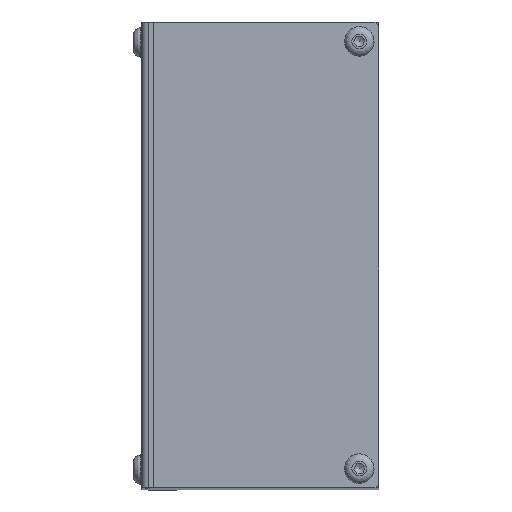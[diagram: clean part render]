
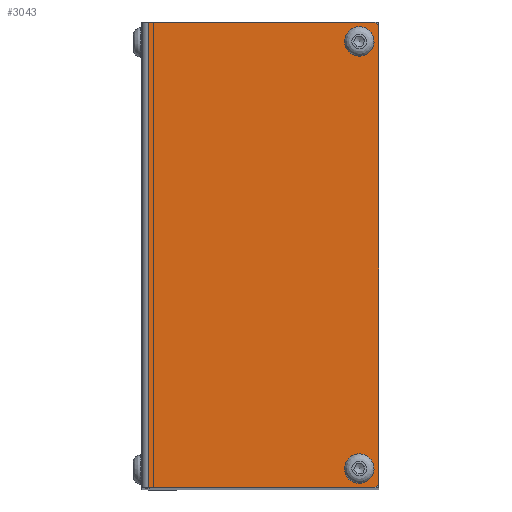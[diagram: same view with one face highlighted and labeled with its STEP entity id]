
A CAD part, top view. The second image highlights one B-rep face of the part: STEP entity #3043.
In plain terms, the highlighted planar face has unit normal (0, 0, 1).
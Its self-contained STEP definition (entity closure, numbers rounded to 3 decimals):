
#67=LINE('',#4733,#279);
#75=LINE('',#4751,#287);
#97=LINE('',#4806,#309);
#98=LINE('',#4808,#310);
#99=LINE('',#4809,#311);
#100=LINE('',#4810,#312);
#279=VECTOR('',#3743,1.414);
#287=VECTOR('',#3755,1.414);
#309=VECTOR('',#3817,120.);
#310=VECTOR('',#3820,58.2);
#311=VECTOR('',#3821,58.2);
#312=VECTOR('',#3822,118.);
#567=PLANE('',#3293);
#663=FACE_BOUND('',#999,.T.);
#664=FACE_BOUND('',#1000,.T.);
#777=FACE_OUTER_BOUND('',#998,.T.);
#998=EDGE_LOOP('',(#2219,#2220,#2221,#2222,#2223,#2224));
#999=EDGE_LOOP('',(#2225));
#1000=EDGE_LOOP('',(#2226));
#1200=CIRCLE('',#3294,3.8);
#1201=CIRCLE('',#3295,3.8);
#1379=VERTEX_POINT('',#4730);
#1380=VERTEX_POINT('',#4732);
#1387=VERTEX_POINT('',#4748);
#1388=VERTEX_POINT('',#4750);
#1398=VERTEX_POINT('',#4791);
#1399=VERTEX_POINT('',#4796);
#1402=VERTEX_POINT('',#4811);
#1403=VERTEX_POINT('',#4813);
#1678=EDGE_CURVE('',#1379,#1380,#67,.T.);
#1686=EDGE_CURVE('',#1387,#1388,#75,.T.);
#1717=EDGE_CURVE('',#1398,#1399,#97,.T.);
#1718=EDGE_CURVE('',#1398,#1379,#98,.T.);
#1719=EDGE_CURVE('',#1388,#1399,#99,.T.);
#1720=EDGE_CURVE('',#1380,#1387,#100,.T.);
#1721=EDGE_CURVE('',#1402,#1402,#1200,.T.);
#1722=EDGE_CURVE('',#1403,#1403,#1201,.T.);
#2219=ORIENTED_EDGE('',*,*,#1678,.F.);
#2220=ORIENTED_EDGE('',*,*,#1718,.F.);
#2221=ORIENTED_EDGE('',*,*,#1717,.T.);
#2222=ORIENTED_EDGE('',*,*,#1719,.F.);
#2223=ORIENTED_EDGE('',*,*,#1686,.F.);
#2224=ORIENTED_EDGE('',*,*,#1720,.F.);
#2225=ORIENTED_EDGE('',*,*,#1721,.T.);
#2226=ORIENTED_EDGE('',*,*,#1722,.T.);
#3043=ADVANCED_FACE('',(#777,#663,#664),#567,.F.);
#3293=AXIS2_PLACEMENT_3D('',#4807,#3818,#3819);
#3294=AXIS2_PLACEMENT_3D('',#4812,#3823,#3824);
#3295=AXIS2_PLACEMENT_3D('',#4814,#3825,#3826);
#3743=DIRECTION('',(0.707,-0.707,0.));
#3755=DIRECTION('',(-0.707,-0.707,0.));
#3817=DIRECTION('',(0.,-1.,0.));
#3818=DIRECTION('center_axis',(0.,0.,
-1.));
#3819=DIRECTION('ref_axis',(0.,-1.,0.));
#3820=DIRECTION('',(1.,0.,0.));
#3821=DIRECTION('',(-1.,0.,0.));
#3822=DIRECTION('',(0.,-1.,0.));
#3823=DIRECTION('center_axis',(0.,0.,
-1.));
#3824=DIRECTION('ref_axis',(0.91,-0.414,0.));
#3825=DIRECTION('center_axis',(0.,0.,
-1.));
#3826=DIRECTION('ref_axis',(0.91,-0.414,0.));
#4730=CARTESIAN_POINT('',(60.,120.,297.));
#4732=CARTESIAN_POINT('',(61.,119.,297.));
#4733=CARTESIAN_POINT('',(67.875,112.125,297.));
#4748=CARTESIAN_POINT('',(61.,1.,297.));
#4750=CARTESIAN_POINT('',(60.,0.,297.));
#4751=CARTESIAN_POINT('',(67.875,7.875,297.));
#4791=CARTESIAN_POINT('',(1.8,120.,297.));
#4796=CARTESIAN_POINT('',(1.8,0.,297.));
#4806=CARTESIAN_POINT('',(1.8,30.,297.));
#4807=CARTESIAN_POINT('Origin',(30.5,60.,297.));
#4808=CARTESIAN_POINT('',(0.,120.,297.));
#4809=CARTESIAN_POINT('',(61.,0.,297.));
#4810=CARTESIAN_POINT('',(61.,120.,297.));
#4811=CARTESIAN_POINT('',(59.459,113.427,297.));
#4812=CARTESIAN_POINT('Origin',(56.,115.,297.));
#4813=CARTESIAN_POINT('',(59.459,3.427,297.));
#4814=CARTESIAN_POINT('Origin',(56.,5.,297.));
